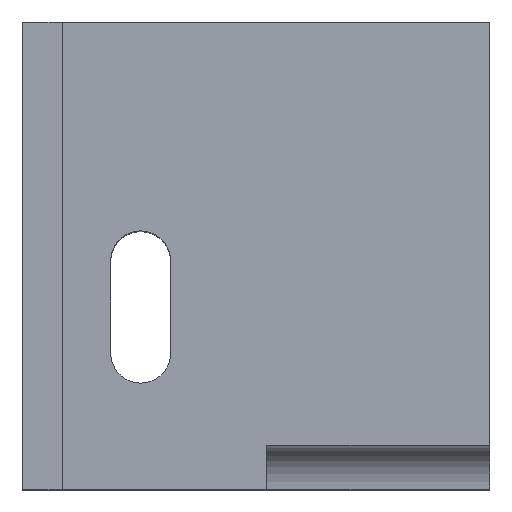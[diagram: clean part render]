
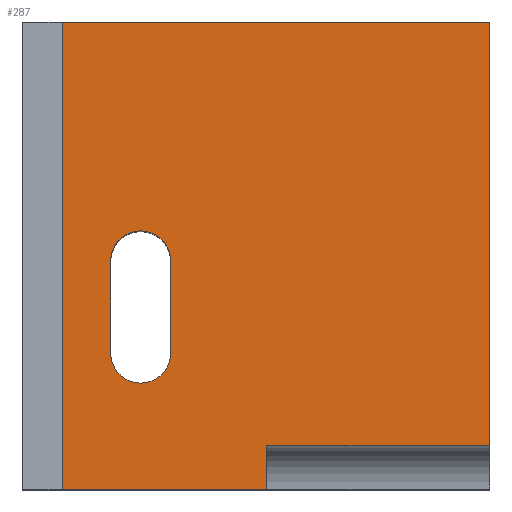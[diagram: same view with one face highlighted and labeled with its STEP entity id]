
A CAD part, top view. The second image highlights one B-rep face of the part: STEP entity #287.
In plain terms, the highlighted planar face has unit normal (0, 0, 1).
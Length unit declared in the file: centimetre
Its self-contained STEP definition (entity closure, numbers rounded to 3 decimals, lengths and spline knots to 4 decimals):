
#13 = VERTEX_POINT ( 'NONE', #445 ) ;
#14 = DIRECTION ( 'NONE',  ( 0., 1., 0. ) ) ;
#32 = LINE ( 'NONE', #773, #419 ) ;
#34 = VERTEX_POINT ( 'NONE', #528 ) ;
#53 = CARTESIAN_POINT ( 'NONE',  ( 522.7804, 94.217, 1000. ) ) ;
#56 = EDGE_CURVE ( 'NONE', #34, #454, #163, .T. ) ;
#63 = CARTESIAN_POINT ( 'NONE',  ( 0., 1000., 1000. ) ) ;
#71 = FACE_OUTER_BOUND ( 'NONE', #373, .T. ) ;
#76 = LINE ( 'NONE', #664, #820 ) ;
#78 = DIRECTION ( 'NONE',  ( 1., 0., 0. ) ) ;
#88 = ORIENTED_EDGE ( 'NONE', *, *, #644, .T. ) ;
#103 = DIRECTION ( 'NONE',  ( 0., 1., 0. ) ) ;
#119 = EDGE_LOOP ( 'NONE', ( #88, #623, #185, #895 ) ) ;
#120 = DIRECTION ( 'NONE',  ( 0., 0., -1. ) ) ;
#124 = VECTOR ( 'NONE', #645, 100. ) ;
#127 = LINE ( 'NONE', #53, #124 ) ;
#128 = VECTOR ( 'NONE', #288, 100. ) ;
#134 = ORIENTED_EDGE ( 'NONE', *, *, #495, .T. ) ;
#140 = CARTESIAN_POINT ( 'NONE',  ( 317.1903, 488.7586, 1000. ) ) ;
#163 = LINE ( 'NONE', #517, #192 ) ;
#166 = DIRECTION ( 'NONE',  ( 0., 1., 0. ) ) ;
#185 = ORIENTED_EDGE ( 'NONE', *, *, #444, .T. ) ;
#192 = VECTOR ( 'NONE', #78, 100. ) ;
#213 = CARTESIAN_POINT ( 'NONE',  ( 0., 0., 1000. ) ) ;
#217 = CARTESIAN_POINT ( 'NONE',  ( 85.4032, 0., 1000. ) ) ;
#234 = VERTEX_POINT ( 'NONE', #730 ) ;
#236 = LINE ( 'NONE', #217, #128 ) ;
#251 = VERTEX_POINT ( 'NONE', #356 ) ;
#256 = VERTEX_POINT ( 'NONE', #284 ) ;
#284 = CARTESIAN_POINT ( 'NONE',  ( 85.4032, 1000., 1000. ) ) ;
#287 = ADVANCED_FACE ( 'NONE', ( #71, #665 ), #677, .T. ) ;
#288 = DIRECTION ( 'NONE',  ( 0., 1., 0. ) ) ;
#317 = EDGE_CURVE ( 'NONE', #234, #13, #757, .T. ) ;
#325 = AXIS2_PLACEMENT_3D ( 'NONE', #789, #120, #485 ) ;
#336 = DIRECTION ( 'NONE',  ( 0., -1., 0. ) ) ;
#340 = CARTESIAN_POINT ( 'NONE',  ( 1000., 94.217, 1000. ) ) ;
#356 = CARTESIAN_POINT ( 'NONE',  ( 317.1903, 291.0803, 1000. ) ) ;
#371 = EDGE_CURVE ( 'NONE', #643, #708, #473, .T. ) ;
#373 = EDGE_LOOP ( 'NONE', ( #470, #535, #759, #847, #641, #134 ) ) ;
#406 = VECTOR ( 'NONE', #650, 100. ) ;
#417 = EDGE_CURVE ( 'NONE', #34, #256, #236, .T. ) ;
#419 = VECTOR ( 'NONE', #336, 100. ) ;
#435 = LINE ( 'NONE', #63, #406 ) ;
#443 = AXIS2_PLACEMENT_3D ( 'NONE', #213, #524, #448 ) ;
#444 = EDGE_CURVE ( 'NONE', #13, #925, #921, .T. ) ;
#445 = CARTESIAN_POINT ( 'NONE',  ( 189.036, 488.7586, 1000. ) ) ;
#447 = CARTESIAN_POINT ( 'NONE',  ( 253.1131, 488.7586, 1000. ) ) ;
#448 = DIRECTION ( 'NONE',  ( 1., 0., 0. ) ) ;
#454 = VERTEX_POINT ( 'NONE', #530 ) ;
#470 = ORIENTED_EDGE ( 'NONE', *, *, #725, .F. ) ;
#473 = LINE ( 'NONE', #765, #766 ) ;
#485 = DIRECTION ( 'NONE',  ( -1., 0., 0. ) ) ;
#495 = EDGE_CURVE ( 'NONE', #454, #549, #76, .T. ) ;
#517 = CARTESIAN_POINT ( 'NONE',  ( 0., 0., 1000. ) ) ;
#519 = DIRECTION ( 'NONE',  ( -1., 0., 0. ) ) ;
#524 = DIRECTION ( 'NONE',  ( 0., 0., 1. ) ) ;
#528 = CARTESIAN_POINT ( 'NONE',  ( 85.4032, 0., 1000. ) ) ;
#530 = CARTESIAN_POINT ( 'NONE',  ( 522.7804, 0., 1000. ) ) ;
#535 = ORIENTED_EDGE ( 'NONE', *, *, #371, .T. ) ;
#549 = VERTEX_POINT ( 'NONE', #855 ) ;
#574 = CARTESIAN_POINT ( 'NONE',  ( 1000., 1000., 1000. ) ) ;
#607 = EDGE_CURVE ( 'NONE', #925, #251, #32, .T. ) ;
#623 = ORIENTED_EDGE ( 'NONE', *, *, #317, .T. ) ;
#641 = ORIENTED_EDGE ( 'NONE', *, *, #56, .T. ) ;
#643 = VERTEX_POINT ( 'NONE', #340 ) ;
#644 = EDGE_CURVE ( 'NONE', #251, #234, #722, .T. ) ;
#645 = DIRECTION ( 'NONE',  ( -1., 0., 0. ) ) ;
#647 = VECTOR ( 'NONE', #166, 100. ) ;
#650 = DIRECTION ( 'NONE',  ( -1., 0., 0. ) ) ;
#664 = CARTESIAN_POINT ( 'NONE',  ( 522.7804, 0., 1000. ) ) ;
#665 = FACE_BOUND ( 'NONE', #119, .T. ) ;
#677 = PLANE ( 'NONE',  #443 ) ;
#683 = DIRECTION ( 'NONE',  ( 0., 0., -1. ) ) ;
#708 = VERTEX_POINT ( 'NONE', #574 ) ;
#722 = CIRCLE ( 'NONE', #325, 64.0772 ) ;
#725 = EDGE_CURVE ( 'NONE', #643, #549, #127, .T. ) ;
#730 = CARTESIAN_POINT ( 'NONE',  ( 189.036, 291.0803, 1000. ) ) ;
#738 = EDGE_CURVE ( 'NONE', #708, #256, #435, .T. ) ;
#757 = LINE ( 'NONE', #834, #647 ) ;
#759 = ORIENTED_EDGE ( 'NONE', *, *, #738, .T. ) ;
#765 = CARTESIAN_POINT ( 'NONE',  ( 1000., 1000., 1000. ) ) ;
#766 = VECTOR ( 'NONE', #103, 100. ) ;
#773 = CARTESIAN_POINT ( 'NONE',  ( 317.1903, 488.7586, 1000. ) ) ;
#789 = CARTESIAN_POINT ( 'NONE',  ( 253.1131, 291.0803, 1000. ) ) ;
#820 = VECTOR ( 'NONE', #14, 100. ) ;
#834 = CARTESIAN_POINT ( 'NONE',  ( 189.036, 291.0803, 1000. ) ) ;
#842 = AXIS2_PLACEMENT_3D ( 'NONE', #447, #683, #519 ) ;
#847 = ORIENTED_EDGE ( 'NONE', *, *, #417, .F. ) ;
#855 = CARTESIAN_POINT ( 'NONE',  ( 522.7804, 94.217, 1000. ) ) ;
#895 = ORIENTED_EDGE ( 'NONE', *, *, #607, .T. ) ;
#921 = CIRCLE ( 'NONE', #842, 64.0772 ) ;
#925 = VERTEX_POINT ( 'NONE', #140 ) ;
